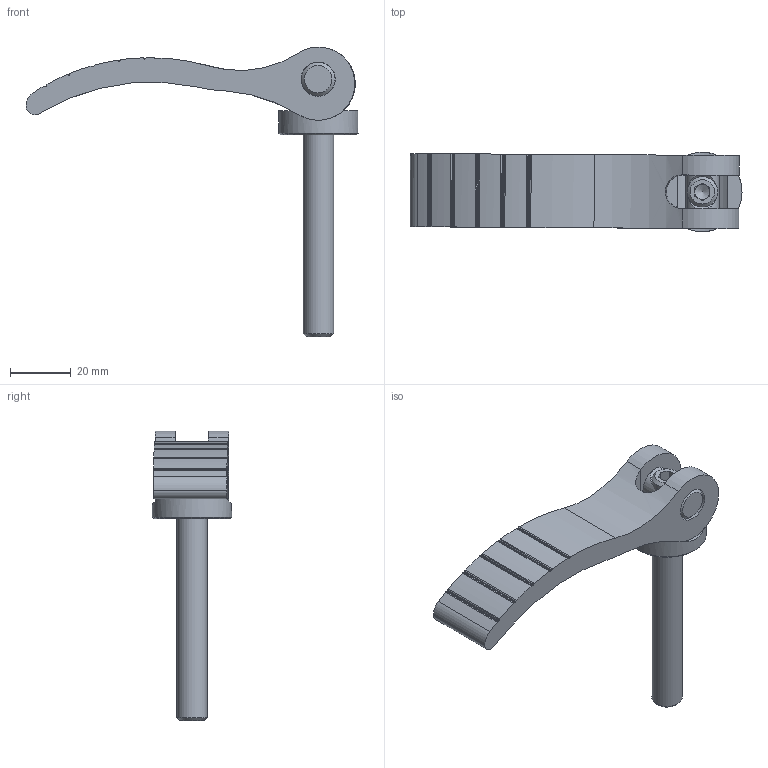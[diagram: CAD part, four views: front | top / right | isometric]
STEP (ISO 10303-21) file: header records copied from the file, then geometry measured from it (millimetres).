
FILE_DESCRIPTION(('STEP AP203'), '1');
FILE_NAME('À00360.111081025 _ Ýêñöåíòðèê 108 ìì', '', ('UNSPECIFIED'), ('UNSPECIFIED'), 'C3D Converter', 'C3D Toolkit', '');
FILE_SCHEMA(('CONFIG_CONTROL_DESIGN'));
Length unit declared in the file: millimetre
Products named in the file (5): А00360.108.03; А00360.108.02; А00360.108.01
Assembly tree (4 placements, depth 2):
  (unnamed)
    А00360.108.03
    А00360.108.02
    А00360.108.01
    (unnamed)
Bounding box: 108.87 x 26 x 94.97 mm (x, y, z)
Volume: 32812.8 mm3; surface area: 14305.8 mm2
Topology: 4 solids, 4 shells, 79 faces, 203 edges, 132 vertices
Faces by surface type: cylinder 38, plane 33, cone 6, bspline 2
Full cylindrical faces by diameter (mm): 8.376 x1, 10 x1, 10.5 x1, 11 x1, 11.2 x2, 26 x1
Entity records: 4407 total; most frequent: CARTESIAN_POINT 2238, DIRECTION 424, ORIENTED_EDGE 370, EDGE_CURVE 185, AXIS2_PLACEMENT_3D 168, VERTEX_POINT 129, EDGE_LOOP 102, LINE 88
